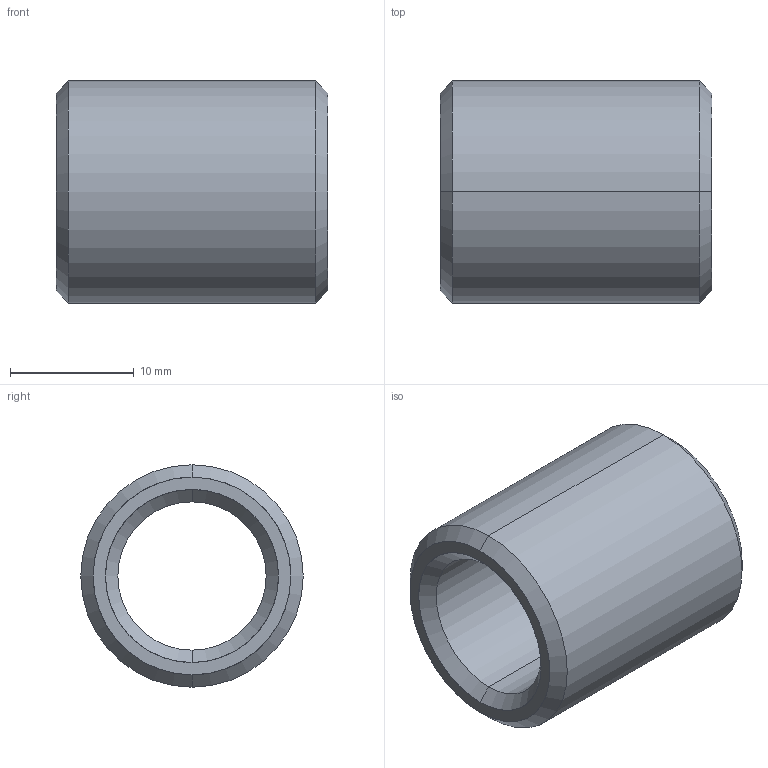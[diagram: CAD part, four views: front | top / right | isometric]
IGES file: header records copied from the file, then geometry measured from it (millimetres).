
Start section: START RECORD GO HERE.
Global section: file name: 352-12X22.igs; native system: DASSAULT SYSTEMES CATIA V5 R20 - www.3ds.com; preprocessor: CATIA Version 5 Release 20 ; author: Utente; organization: NB04-ASUS; date: 20210410.112757; units: millimetre
Bounding box: 22 x 18 x 18 mm (x, y, z)
Surface area: 2250.8 mm2 (no closed solid volume)
Topology: 0 solids, 0 shells, 14 faces, 88 edges, 88 vertices
Faces by surface type: revolution 12, plane 2
